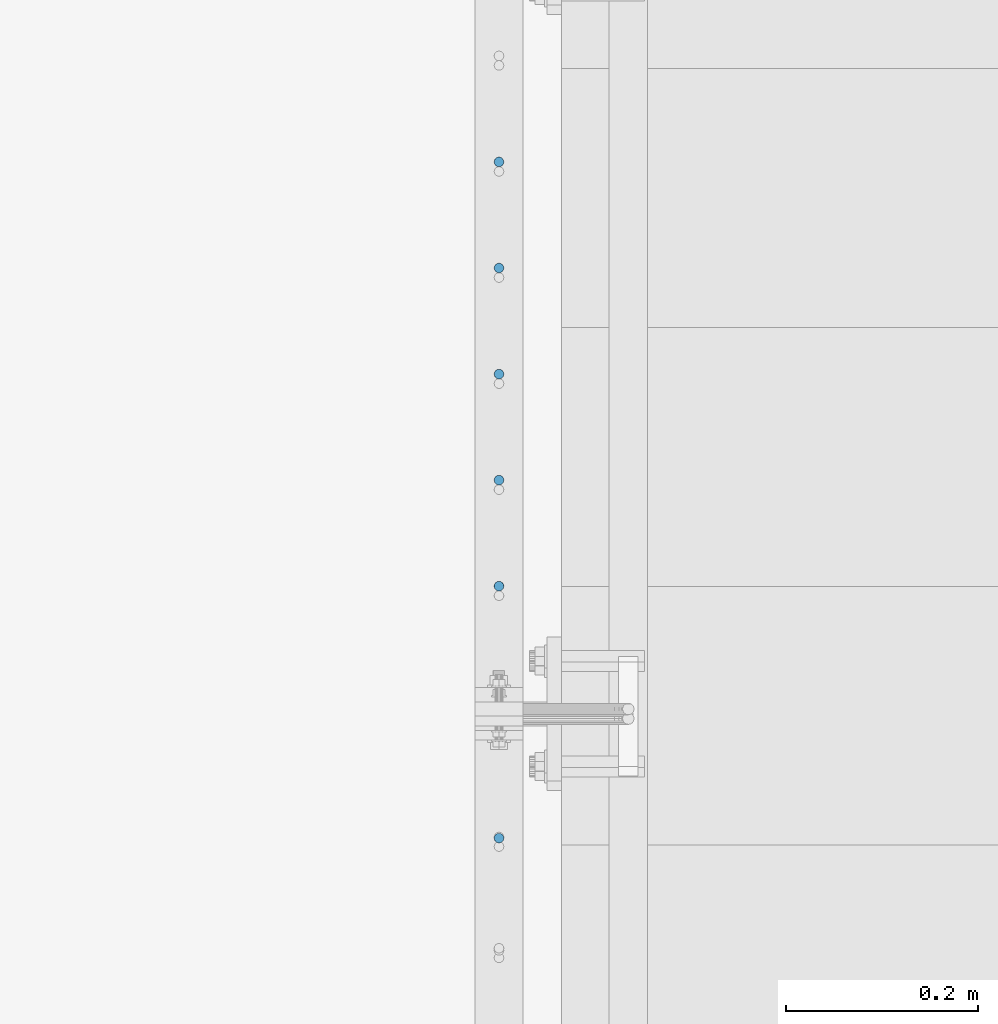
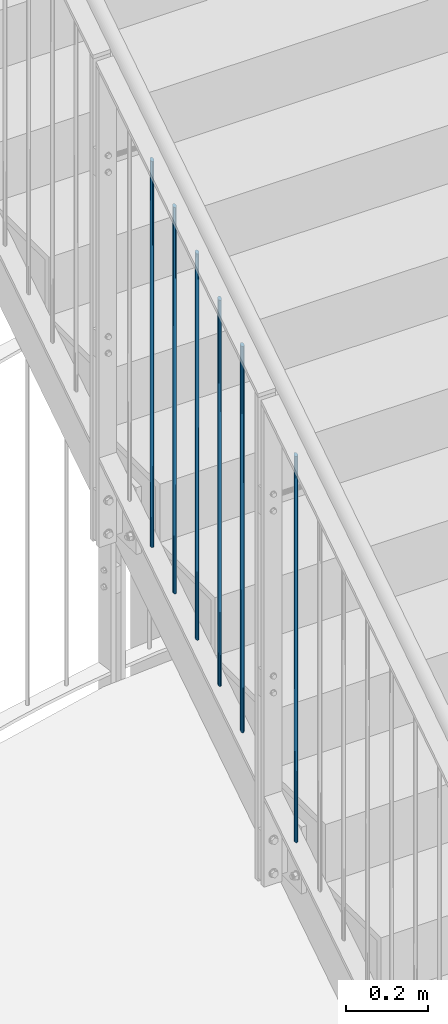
# One storey, part 15 of 296: 6 columns.
"""IFC2X3 building model written with IfcOpenShell, lengths in millimetres."""

from ifc_helpers import new_model, entity, si_unit, converted_unit, frame, origin, origin_with_axes, origin_2d, place, context, project, spatial, circle, extrude, clip, halfspace, material, element, save


model = new_model("IFC2X3")

# Units and contexts
model_context = context("Model", 3, precision=1e-09, world=origin_with_axes())
ifc_project = project(units=[si_unit("LENGTHUNIT", "METRE", prefix="MILLI"), si_unit("AREAUNIT", "SQUARE_METRE"), si_unit("VOLUMEUNIT", "CUBIC_METRE"), converted_unit("PLANEANGLEUNIT", "DEGREE", entity("IfcPlaneAngleMeasure", 0.01745329), si_unit("PLANEANGLEUNIT", "RADIAN"), dimensions=[0, 0, 0, 0, 0, 0, 0])], contexts=[model_context])

# Site, building, storey
site_placement = place(None, origin_with_axes())
site = spatial("IfcSite", under=ifc_project, at=site_placement, Name="TZD-S?d | Treppenhausgel?nder", CompositionType="ELEMENT")
building_placement = place(site_placement, origin_with_axes())
building = spatial("IfcBuilding", under=site, at=building_placement, Name="Struktur 1", CompositionType="ELEMENT")
storey_placement = place(building_placement, origin_with_axes())
storey = spatial("IfcBuildingStorey", under=building, at=storey_placement, Name="Default Storey", CompositionType="ELEMENT", Elevation=0.0)

# Columns
ifc_material = material(Name="S235JR")
column_1_placement = place(None, frame((-45.0, -1798.9285714, 6519.72800438), z_axis=(0.0, 0.0, 1.0), x_axis=(0.0, 1.0, 0.0)))
element("IfcColumn", 1, at=column_1_placement, inside=storey, material=ifc_material, Name="-", ObjectType="-", context=model_context, shape_type="Clipping", body=[
    clip(clip(extrude(circle(Radius=5.0, at=origin_2d()), origin(), (0.0, 0.0, 1.0), 1184.929585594), halfspace(frame((-2233.392490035, -45.0, -270.54726499), z_axis=(0.542183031, 0.0, -0.840260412), x_axis=(0.0, 1.0, 0.0)), True)), halfspace(frame((-1706.658808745, -45.0, -1086.864697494), z_axis=(-0.542183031, 0.0, 0.840260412), x_axis=(0.0, -1.0, 0.0)), True)),
])
column_2_placement = place(None, frame((-45.0, -1909.6428571, 6448.288952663), z_axis=(0.0, 0.0, 1.0), x_axis=(0.0, 1.0, 0.0)))
element("IfcColumn", 2, at=column_2_placement, inside=storey, material=ifc_material, Name="-", ObjectType="-", context=model_context, shape_type="Clipping", body=[
    clip(clip(extrude(circle(Radius=5.0, at=origin_2d()), origin(), (0.0, 0.0, 1.0), 1184.929585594), halfspace(frame((-1595.944523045, -45.0, -1015.425645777), z_axis=(-0.542183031, 0.0, 0.840260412), x_axis=(0.0, -1.0, 0.0)), True)), halfspace(frame((-2122.678204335, -45.0, -199.108213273), z_axis=(0.542183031, 0.0, -0.840260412), x_axis=(0.0, 1.0, 0.0)), True)),
])
column_3_placement = place(None, frame((-45.0, -2020.3571428, 6376.849900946), z_axis=(0.0, 0.0, 1.0), x_axis=(0.0, 1.0, 0.0)))
element("IfcColumn", 3, at=column_3_placement, inside=storey, material=ifc_material, Name="-", ObjectType="-", context=model_context, shape_type="Clipping", body=[
    clip(clip(extrude(circle(Radius=5.0, at=origin_2d()), origin(), (0.0, 0.0, 1.0), 1184.929585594), halfspace(frame((-1485.230237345, -45.0, -943.98659406), z_axis=(-0.542183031, 0.0, 0.840260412), x_axis=(0.0, -1.0, 0.0)), True)), halfspace(frame((-2011.963918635, -45.0, -127.669161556), z_axis=(0.542183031, 0.0, -0.840260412), x_axis=(0.0, 1.0, 0.0)), True)),
])
column_4_placement = place(None, frame((-45.0, -2131.0714285, 6305.410849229), z_axis=(0.0, 0.0, 1.0), x_axis=(0.0, 1.0, 0.0)))
element("IfcColumn", 4, at=column_4_placement, inside=storey, material=ifc_material, Name="-", ObjectType="-", context=model_context, shape_type="Clipping", body=[
    clip(clip(extrude(circle(Radius=5.0, at=origin_2d()), origin(), (0.0, 0.0, 1.0), 1184.929585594), halfspace(frame((-1374.515951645, -45.0, -872.547542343), z_axis=(-0.542183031, 0.0, 0.840260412), x_axis=(0.0, -1.0, 0.0)), True)), halfspace(frame((-1901.249632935, -45.0, -56.230109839), z_axis=(0.542183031, 0.0, -0.840260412), x_axis=(0.0, 1.0, 0.0)), True)),
])
column_5_placement = place(None, frame((-45.0, -2241.7857142, 6233.971797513), z_axis=(0.0, 0.0, 1.0), x_axis=(0.0, 1.0, 0.0)))
element("IfcColumn", 5, at=column_5_placement, inside=storey, material=ifc_material, Name="-", ObjectType="-", context=model_context, shape_type="Clipping", body=[
    clip(clip(extrude(circle(Radius=5.0, at=origin_2d()), origin(), (0.0, 0.0, 1.0), 1184.929585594), halfspace(frame((-1263.801665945, -45.0, -801.108490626), z_axis=(-0.542183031, 0.0, 0.840260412), x_axis=(0.0, -1.0, 0.0)), True)), halfspace(frame((-1790.535347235, -45.0, 15.208941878), z_axis=(0.542183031, 0.0, -0.840260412), x_axis=(0.0, 1.0, 0.0)), True)),
])
column_6_placement = place(None, frame((-45.0, -2504.722222, 6064.3104511), z_axis=(0.0, 0.0, 1.0), x_axis=(0.0, 1.0, 0.0)))
element("IfcColumn", 6, at=column_6_placement, inside=storey, material=ifc_material, Name="-", ObjectType="-", context=model_context, shape_type="Clipping", body=[
    clip(clip(extrude(circle(Radius=5.0, at=origin_2d()), origin(), (0.0, 0.0, 1.0), 1184.929585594), halfspace(frame((-1000.865158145, -45.0, -631.447144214), z_axis=(-0.542183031, 0.0, 0.840260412), x_axis=(0.0, -1.0, 0.0)), True)), halfspace(frame((-1527.598839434, -45.0, 184.870288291), z_axis=(0.542183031, 0.0, -0.840260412), x_axis=(0.0, 1.0, 0.0)), True)),
])

save(model, "model.ifc")
